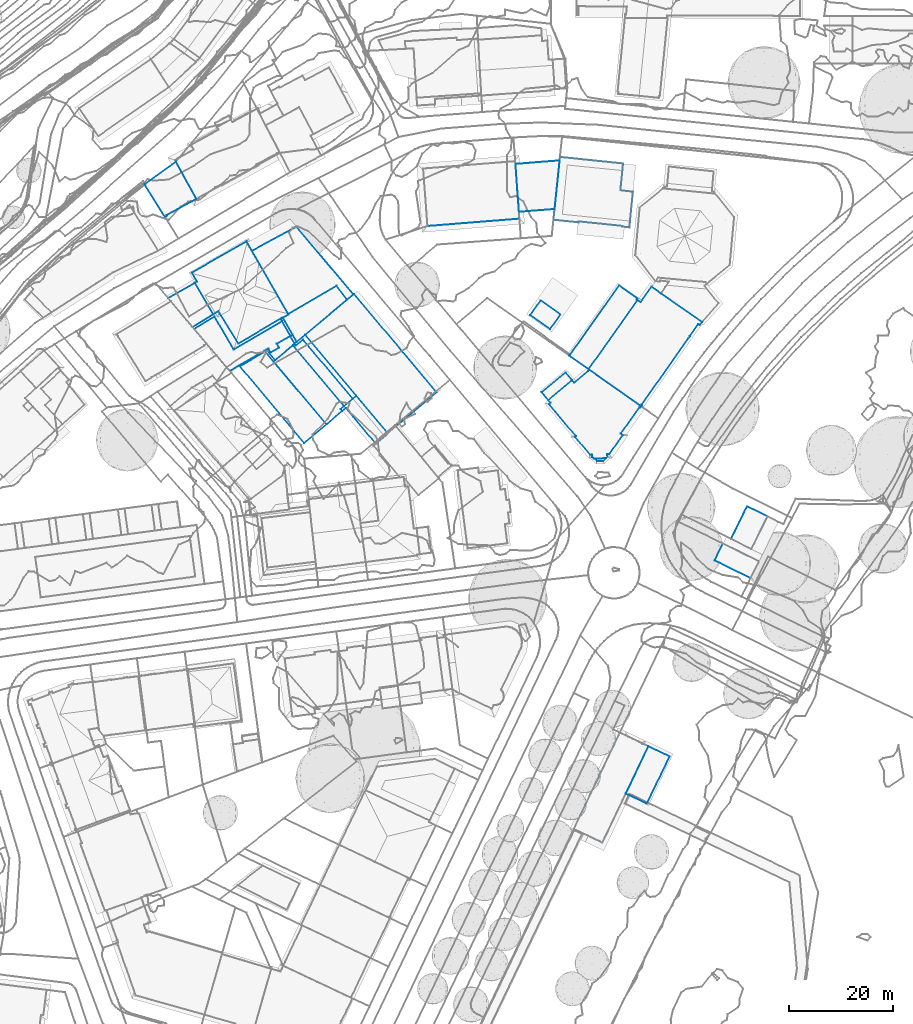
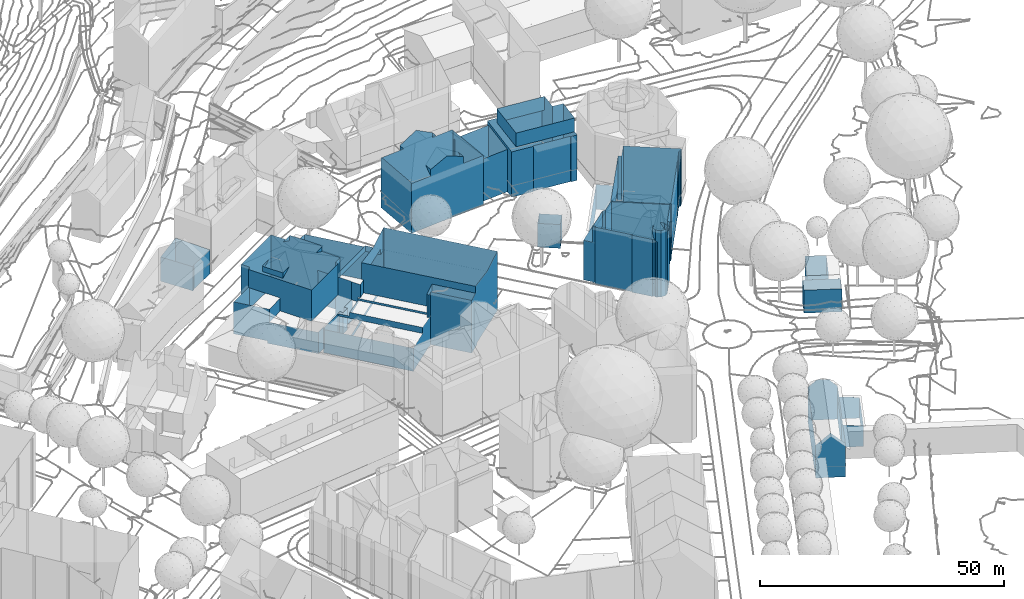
# Not in any storey, part 45 of 494: 13 walls.
"""IFC2X3 model written with IfcOpenShell, lengths in metres."""

from ifc_helpers import new_model, si_unit, frame, origin_with_axes, place, context, subcontext, project, faceted_brep, element, save


model = new_model("IFC2X3")

# Units and contexts
model_context = context("Model", 3, precision=1e-05, world=origin_with_axes())
body_context = subcontext(model_context, "Body", "Model", "MODEL_VIEW")
ifc_project = project(units=[si_unit("AREAUNIT", "SQUARE_METRE"), si_unit("LENGTHUNIT", "METRE")], contexts=[model_context])

# Walls
wall_1_placement = place(None, frame((498.6247320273, 242.5555160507, 500.7935), z_axis=(0.0, 0.0, 1.0), x_axis=(1.0, 0.0, 0.0)))
element("IfcWall", 1, at=wall_1_placement, Name="Wall 0", context=body_context, shape_type="Brep", body=[
    faceted_brep([(11.8209999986, -2.3183999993, 14.1177), (9.5240000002, -3.6611999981, 14.1177), (9.5240000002, -3.6611999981, 12.7668), (7.0659999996, 0.5429000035, 14.1177), (9.362999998, 1.8847000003, 14.1177), (7.0659999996, 0.5429000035, 12.7668), (13.7329999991, -13.0097999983, 4.7326), (11.9100000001, -14.0595999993, 4.7326), (13.7329999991, -13.0097999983, -0.6109), (13.8579999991, -13.1591999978, 4.7326), (13.8579999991, -13.1591999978, -0.6109), (18.7349999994, -10.3310999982, 4.7325), (18.7349999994, -10.3310999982, -0.6109), (18.6279999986, -10.191399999, 4.7325), (18.6279999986, -10.191399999, -0.6109), (19.3709999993, -9.7636999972, 4.7325), (19.3709999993, -9.7636999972, -0.6109), (19.8000000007, -10.5088, 4.7325), (19.8000000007, -10.5088, -0.6109), (21.4030000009, -9.5859999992, 4.7325), (21.4030000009, -9.5859999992, -0.6109), (20.9739999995, -8.8407999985, 4.7325), (20.9739999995, -8.8407999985, -0.6109), (24.0399999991, -7.0761999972, 4.7325), (24.0399999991, -7.0761999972, -0.6109), (22.1109999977, -3.7314999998, -0.6109), (22.1510000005, -3.8017999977, -0.397), (22.1109999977, -3.7314999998, -0.397), (22.1510000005, -3.8017999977, 4.7326), (13.5709999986, -8.7636999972, -0.397), (13.5709999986, -8.7636999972, -0.6109), (4.7369999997, -5.5927999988, 0.0), (8.6909999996, -3.1327999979, -0.3969), (4.7369999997, -5.5927999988, -0.6109), (9.6979999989, -2.5058999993, -0.3969), (9.6979999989, -2.5058999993, -0.6109), (21.1669999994, 0.4414000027, 14.1177), (19.0489999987, -0.7968999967, 14.1177), (21.1669999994, 0.4414000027, 12.8998), (15.1259999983, 5.9150000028, 14.1177), (17.2879999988, 7.1787, 14.1177), (17.2879999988, 7.1787, 12.8748), (4.5920000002, 4.933600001, 12.6968), (15.112999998, 10.9550000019, -0.3969), (4.5920000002, 4.933600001, -0.3969), (15.112999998, 10.9550999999, 2.8908), (12.4820000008, 9.4492000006, 12.7388), (15.112999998, 10.9550999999, 7.8213), (23.2469999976, -3.1708999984, 6.2014), (23.2469999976, -3.1708999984, -0.397), (21.756000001, -4.0282999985, 12.8108), (21.756000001, -4.0282999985, 4.7326), (12.6730000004, -9.9433999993, 4.7326), (22.0170000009, -4.4814999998, 12.5368), (12.6730000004, -9.9433999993, 12.5368), (22.0170000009, -4.4814999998, 4.7326), (8.6909999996, -3.1327999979, 0.0), (5.1400000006, 2.942400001, 0.0), (8.938000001, -3.5546999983, 7.9963), (5.1400000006, 2.942400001, 12.5368), (8.938000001, -3.5546999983, 4.7326), (5.1400000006, 2.942400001, 7.9963), (5.0500000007, -5.9618999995, 7.9963), (5.0500000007, -5.9618999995, 4.7326), (0.0, 0.0, 7.9963), (11.9100000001, -14.0595999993, -0.6109), (0.0, 0.0, 0.0), (5.5850000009, 3.1972000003, -0.3969), (5.5850000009, 3.1972000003, 12.7968), (4.699000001, 4.746100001, 12.8058), (15.112999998, 10.9550999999, 12.7528), (15.2199999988, 10.7695000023, 12.8608), (17.4919999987, 6.8242000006, 14.2747), (20.9419999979, 0.8310000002, 14.2956), (23.1449999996, -2.9941999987, 12.9128), (23.2469999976, -3.1708999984, 12.8048), (5.1400000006, 2.942400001, -0.3969)], [[[0, 1, 2]], [[3, 4, 5]], [[1, 3, 2]], [[6, 7, 8]], [[9, 6, 10]], [[11, 9, 12]], [[13, 11, 14]], [[15, 13, 16]], [[17, 15, 18]], [[19, 17, 20]], [[21, 19, 22]], [[23, 21, 24]], [[25, 26, 24]], [[26, 25, 27]], [[23, 26, 28]], [[26, 23, 24]], [[29, 27, 30]], [[31, 32, 33]], [[32, 34, 35]], [[32, 35, 33]], [[34, 29, 35]], [[36, 37, 38]], [[39, 40, 41]], [[42, 43, 44]], [[45, 46, 47]], [[48, 28, 49]], [[28, 26, 49]], [[50, 51, 28]], [[52, 53, 54]], [[52, 55, 53]], [[55, 51, 50]], [[56, 57, 32]], [[54, 58, 52]], [[58, 54, 59]], [[52, 58, 60]], [[61, 58, 59]], [[58, 62, 60]], [[63, 62, 64]], [[31, 65, 7]], [[7, 63, 31]], [[66, 31, 63]], [[31, 33, 65]], [[66, 63, 64]], [[67, 68, 42]], [[44, 67, 42]], [[68, 69, 42]], [[47, 70, 71]], [[41, 40, 72]], [[47, 71, 41]], [[45, 47, 48]], [[45, 49, 43]], [[38, 47, 41]], [[38, 48, 47]], [[41, 73, 38]], [[73, 36, 38]], [[38, 74, 75]], [[49, 45, 48]], [[48, 38, 75]], [[72, 73, 41]], [[66, 64, 57]], [[76, 57, 67]], [[57, 64, 61]], [[59, 68, 67]], [[61, 67, 57]], [[67, 61, 59]], [[3, 5, 2]], [[7, 65, 8]], [[6, 8, 10]], [[9, 10, 12]], [[11, 12, 14]], [[13, 14, 16]], [[15, 16, 18]], [[17, 18, 20]], [[19, 20, 22]], [[21, 22, 24]], [[27, 25, 30]], [[56, 32, 31]], [[29, 30, 35]], [[42, 46, 43]], [[70, 47, 46]], [[43, 46, 45]], [[75, 50, 28]], [[48, 75, 28]], [[50, 53, 55]], [[57, 76, 32]], [[62, 63, 60]]]),
])
wall_2_placement = place(None, frame((512.3577320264, 229.5457160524, 499.1847), z_axis=(0.0, 0.0, 1.0), x_axis=(1.0, 0.0, 0.0)))
element("IfcWall", 2, at=wall_2_placement, Name="Wall 0", context=body_context, shape_type="Brep", body=[
    faceted_brep([(19.5500000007, -8.4013999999, -0.225), (20.2410000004, -7.8192999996, -0.0021), (20.2410000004, -7.8192999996, -0.0321), (19.5500000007, -8.4013999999, -0.0021), (22.6040000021, -5.8291000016, -0.225), (22.6040000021, -5.8291000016, -0.0321), (19.8770000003, -8.7890999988, -0.0021), (19.8770000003, -8.7890999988, -0.2251), (19.8770000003, -8.7890999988, 12.7847), (19.5500000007, -8.4013999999, 7.1012), (19.8770000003, -8.7890999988, 7.1012), (32.1220000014, 1.9580000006, 0.2619), (22.1979999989, 13.7987999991, 0.2619), (22.1979999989, 13.7987999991, 15.1225), (30.0139999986, 4.4717000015, 15.1185), (35.0989999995, -1.5947000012, 0.2619), (38.0760000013, -5.1475000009, 0.2619), (22.0749999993, 13.6963, 0.2619), (22.0749999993, 13.6963, 7.6682), (22.0749999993, 13.6963, 15.0985), (27.9970000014, -13.6240000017, 15.0425), (21.9180000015, -6.4072000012, 13.3336), (27.9970000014, -13.6240000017, 13.3336), (12.0340000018, 5.3291000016, 15.0425), (12.3099999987, 5.0009999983, 10.8489), (21.9180000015, -6.4072000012, 7.5842), (12.0340000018, 5.3291000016, 10.8489), (12.3099999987, 5.0009999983, 7.5842), (9.9090000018, 5.7050999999, 10.8489), (8.0230000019, 8.9814000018, 1.1239), (9.9090000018, 5.7050999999, 1.1238), (9.4670000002, 9.9199000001, 1.1868), (18.7419999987, 15.3828000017, 1.1868), (9.4670000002, 9.9199000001, 1.1239), (2.4330000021, 22.1367000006, 9.4411), (11.0240000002, 26.817400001, 9.4411), (2.4330000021, 22.1367000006, 1.1869), (8.0230000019, 8.9814000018, 10.8489), (9.5139999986, 9.8388999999, 1.1239), (9.5139999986, 9.8388999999, 10.8489), (9.4670000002, 9.9199000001, 10.8489), (18.7419999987, 15.3828000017, 10.8489), (9.4670000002, 9.9199000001, 9.4411), (10.9149999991, 3.8183999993, 10.8489), (10.693, 4.1992000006, 7.5842), (10.9149999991, 3.8183999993, 7.5842), (9.8399999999, 5.6649999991, 10.8489), (9.8399999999, 5.6649999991, 6.3413), (10.693, 4.1992000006, 6.3413), (20.8209999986, 12.7314999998, 1.1868), (18.7419999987, 15.3828000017, 1.1239), (18.7419999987, 15.3828000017, 9.4411), (20.8209999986, 12.7314000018, 9.441), (20.6429999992, -8.2763999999, 3.7756), (20.6409999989, -8.2754000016, 7.5842), (20.5670000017, -8.2060000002, 7.5842), (20.5670000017, -8.2060000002, -0.0321), (20.6429999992, -8.2763999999, 1.8717), (20.6440000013, -8.2773000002, -0.0321), (7.6700000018, 3.4237999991, 6.3413), (7.2410000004, 4.1689000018, 6.3413), (7.6700000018, 3.4237999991, 1.0359), (6.0670000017, 2.5009999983, 6.3413), (6.0670000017, 2.5009999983, 1.0359), (5.6380000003, 3.246100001, 6.3413), (5.6380000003, 3.246100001, 1.0359), (12.550999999, -14.9756000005, 5.7954), (0.0, 0.0, 5.7954), (12.550999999, -14.9756000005, -0.0001), (26.3229999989, -15.0322000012, -0.2251), (22.0139999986, -9.9072000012, 6.3603), (22.0139999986, -9.9061999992, 3.0676), (26.3229999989, -15.0322000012, 9.653), (26.3229999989, -15.0322000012, 12.9457), (22.0139999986, -9.9072000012, -0.2251), (22.0139999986, -9.9061999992, 9.654), (20.5769999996, -8.1981999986, 9.654), (20.5769999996, -8.1981999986, 7.5842), (20.5769999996, -8.1981999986, -0.0321), (20.5769999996, -8.1981999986, -0.2251), (19.5500000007, -8.4013999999, 12.7847), (20.2410000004, -7.8192999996, 7.5842), (20.2410000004, -7.8192999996, 7.0573), (10.3460000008, 3.9072000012, 7.5842), (10.3460000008, 3.9072000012, -0.002), (10.307, 5.933600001, 1.1238), (11.1059999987, 4.5478999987, 1.1238), (10.307, 5.933600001, 1.0359), (5.2470000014, 3.0214999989, 1.0359), (6.9270000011, 1.0273000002, 1.0359), (5.2470000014, 3.0214999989, 0.0), (17.3909999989, 9.8418000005, 14.1766), (17.3909999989, 9.8418000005, 10.8489), (20.8209999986, 12.7314999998, 10.8489), (22.0300000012, 13.7490000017, 15.0985), (22.0300000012, 13.7490000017, 9.441), (38.0760000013, -5.1475000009, 15.1135), (33.3579999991, -9.1152000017, 14.1766), (33.3579999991, -9.1152000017, 0.2619), (26.3229999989, -15.0322000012, 6.3593), (28.6840000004, -13.0458999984, -0.2251), (28.6840000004, -13.0458999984, 0.2619), (11.0240000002, 26.817400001, 1.1869), (22.0300000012, 13.7490000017, 1.1868), (22.0300000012, 13.7490000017, 0.2619), (0.0, 0.0, 0.0), (4.8949999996, 2.8183999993, 5.7954), (4.8949999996, 2.8183999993, 6.3413), (16.8289999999, -11.3632999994, 7.2982), (6.6150000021, 0.7637000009, 6.3413), (16.8289999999, -11.3632999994, 5.7954), (6.9180000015, 0.4043000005, 5.7954), (6.6150000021, 0.7637000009, 5.7954), (6.6150000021, 0.7637000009, 7.2983), (10.3460000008, 3.9072000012, 7.0583), (6.9270000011, 1.0273000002, -0.002), (11.1059999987, 4.5478999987, 1.0359), (12.7190000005, 5.9063000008, 0.2619), (12.7190000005, 5.9063000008, -0.032), (10.3460000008, 3.9072000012, -0.032), (12.7190000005, 5.9063000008, 1.1238), (20.8209999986, 12.7314000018, 1.1238), (17.3909999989, 9.8418000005, 1.1238), (17.3909999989, 9.8418000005, 0.2619), (22.6040000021, -5.8291000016, 0.2619), (22.9970000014, -6.2949000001, 0.2619), (7.2410000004, 4.1689000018, 1.0359), (20.5769999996, -8.1981999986, 12.9477), (16.8289999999, -11.3632999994, -0.0021)], [[[0, 1, 2]], [[1, 0, 3]], [[0, 2, 4]], [[5, 4, 2]], [[6, 3, 7]], [[8, 9, 10]], [[11, 12, 13]], [[11, 13, 14]], [[14, 15, 11]], [[15, 14, 16]], [[17, 18, 12]], [[18, 19, 12]], [[20, 21, 22]], [[21, 20, 23]], [[21, 24, 25]], [[24, 23, 26]], [[23, 24, 21]], [[24, 27, 25]], [[28, 29, 30]], [[31, 32, 33]], [[34, 35, 36]], [[37, 38, 29]], [[38, 37, 39]], [[40, 41, 42]], [[43, 44, 45]], [[44, 43, 46]], [[47, 44, 46]], [[47, 48, 44]], [[32, 49, 50]], [[24, 43, 27]], [[51, 41, 52]], [[53, 54, 55]], [[53, 56, 57]], [[56, 53, 55]], [[56, 58, 57]], [[59, 60, 61]], [[62, 59, 63]], [[64, 62, 65]], [[66, 67, 68]], [[69, 70, 71]], [[70, 72, 73]], [[74, 69, 71]], [[75, 54, 70]], [[54, 75, 76]], [[70, 54, 53]], [[77, 54, 76]], [[74, 71, 57]], [[57, 71, 53]], [[57, 58, 74]], [[78, 79, 58]], [[58, 79, 74]], [[80, 81, 9]], [[81, 80, 21]], [[9, 81, 82]], [[25, 81, 21]], [[81, 83, 82]], [[1, 84, 2]], [[85, 86, 87]], [[88, 89, 90]], [[23, 91, 92]], [[92, 26, 23]], [[91, 93, 92]], [[93, 94, 95]], [[94, 93, 91]], [[95, 52, 93]], [[96, 97, 16]], [[16, 97, 98]], [[97, 99, 98]], [[97, 22, 72]], [[73, 72, 22]], [[72, 99, 97]], [[100, 101, 69]], [[99, 69, 101]], [[98, 99, 101]], [[22, 97, 20]], [[39, 42, 38]], [[42, 39, 40]], [[38, 42, 31]], [[34, 31, 42]], [[36, 31, 34]], [[102, 35, 18]], [[18, 103, 102]], [[104, 103, 17]], [[18, 35, 95]], [[18, 17, 103]], [[95, 19, 18]], [[94, 19, 95]], [[105, 106, 88]], [[106, 105, 67]], [[107, 64, 106]], [[65, 88, 106]], [[88, 90, 105]], [[65, 106, 64]], [[108, 109, 110]], [[109, 111, 110]], [[106, 112, 107]], [[109, 112, 111]], [[48, 113, 114]], [[113, 48, 109]], [[83, 44, 114]], [[48, 114, 44]], [[115, 89, 84]], [[116, 117, 89]], [[118, 119, 84]], [[117, 84, 89]], [[120, 116, 86]], [[121, 103, 104]], [[103, 121, 49]], [[122, 121, 104]], [[117, 118, 84]], [[116, 123, 117]], [[104, 123, 120]], [[120, 122, 104]], [[116, 120, 123]], [[117, 5, 118]], [[5, 117, 124]], [[5, 100, 4]], [[101, 5, 125]], [[100, 5, 101]], [[125, 5, 124]], [[126, 47, 30]], [[47, 126, 60]], [[46, 28, 47]], [[28, 30, 47]], [[30, 87, 126]], [[76, 127, 8]], [[10, 55, 76]], [[76, 55, 77]], [[79, 78, 56]], [[10, 56, 55]], [[7, 79, 56]], [[8, 10, 76]], [[10, 108, 110]], [[68, 110, 66]], [[10, 110, 6]], [[7, 56, 6]], [[6, 56, 10]], [[3, 0, 7]], [[80, 9, 8]], [[96, 16, 14]], [[13, 12, 19]], [[37, 29, 28]], [[32, 50, 33]], [[35, 102, 36]], [[41, 51, 42]], [[49, 121, 50]], [[43, 45, 27]], [[41, 93, 52]], [[60, 126, 61]], [[59, 61, 63]], [[62, 63, 65]], [[67, 105, 68]], [[73, 75, 70]], [[127, 75, 73]], [[99, 72, 70]], [[70, 69, 99]], [[75, 127, 76]], [[71, 70, 53]], [[83, 114, 82]], [[84, 119, 2]], [[86, 116, 87]], [[89, 115, 90]], [[31, 33, 38]], [[113, 109, 108]], [[112, 109, 107]], [[30, 85, 87]], [[128, 110, 68]], [[110, 128, 6]]]),
])
wall_3_placement = place(None, frame((547.8737320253, 267.5604160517, 499.9486), z_axis=(0.0, 0.0, 1.0), x_axis=(1.0, 0.0, 0.0)))
element("IfcWall", 3, at=wall_3_placement, Name="Wall 0", context=body_context, shape_type="Brep", body=[
    faceted_brep([(17.9920000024, -1.5088, 0.0), (17.9780000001, -1.3134999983, 12.2728), (18.182, -4.1259999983, 4.5735), (18.182, -4.1259999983, 12.3038), (18.382000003, -6.9003999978, 12.3348), (17.7800000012, 1.4237999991, 12.2428), (17.7800000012, 1.4237999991, 9.1511), (17.7800000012, 1.4237999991, 6.0594), (17.7800000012, 1.4237999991, 0.0), (18.0810000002, -2.7382999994, 0.0), (18.2400000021, -4.928799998, 0.0), (18.382000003, -6.9003999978, 3.0587), (18.382000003, -6.9013999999, 0.0), (18.4820000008, -8.2890999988, 0.0), (18.5820000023, -9.6767999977, 3.0917), (18.5820000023, -9.6767999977, 0.0), (13.5300000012, -8.2148999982, 14.0816), (13.6840000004, -10.0665000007, 14.0816), (13.6840000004, -10.0665000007, 12.3838), (5.564000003, -10.7168000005, 14.0816), (5.4130000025, -8.8867999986, 14.0816), (5.564000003, -10.7168000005, 12.4038), (12.7660000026, 1.0223999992, 13.6337), (12.875, -0.2958999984, 13.6337), (12.7660000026, 1.0223999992, 12.4288), (4.757000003, -0.9668000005, 13.6337), (4.6460000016, 0.3720000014, 13.6337), (4.6460000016, 0.3720000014, 12.4078), (0.8170000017, -10.9189999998, 0.0), (0.8300000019, -11.0956999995, 0.0), (0.8300000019, -11.0956999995, 12.4158), (0.0, 0.0, 0.0), (0.8170000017, -10.9189999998, 12.5778), (0.0, 0.0, 12.3968), (0.0219999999, -0.2939999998, 12.6648), (8.7060000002, 0.6972000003, 15.8685), (17.5899999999, 1.4081999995, 12.4408), (9.6240000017, -10.3915999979, 15.8685), (7.6469999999, -10.5498999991, 0.0), (18.5820000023, -9.6767999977, 12.3678), (5.5540000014, -10.7177999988, 12.4038), (5.5540000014, -10.7177999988, 0.0)], [[[0, 1, 2]], [[2, 3, 4]], [[5, 1, 6]], [[7, 0, 8]], [[0, 2, 9]], [[10, 2, 11]], [[10, 11, 12]], [[11, 13, 12]], [[13, 11, 14]], [[15, 13, 14]], [[2, 10, 9]], [[16, 17, 18]], [[19, 20, 21]], [[22, 23, 24]], [[25, 26, 27]], [[28, 29, 30]], [[31, 28, 30]], [[30, 32, 33]], [[34, 33, 32]], [[30, 33, 31]], [[27, 26, 35]], [[24, 27, 35]], [[33, 27, 31]], [[8, 31, 27]], [[24, 35, 22]], [[6, 24, 36]], [[6, 36, 5]], [[8, 27, 7]], [[7, 24, 6]], [[7, 27, 24]], [[18, 17, 37]], [[38, 15, 14]], [[14, 39, 18]], [[14, 18, 38]], [[37, 21, 38]], [[21, 37, 19]], [[21, 40, 41]], [[38, 21, 41]], [[29, 41, 40]], [[30, 29, 40]], [[37, 38, 18]], [[1, 3, 2]], [[2, 4, 11]], [[7, 6, 1]], [[1, 0, 7]], [[39, 14, 4]], [[11, 4, 14]]]),
])
wall_4_placement = place(None, frame((494.0337320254, 264.5447160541, 502.2364), z_axis=(0.0, 0.0, 1.0), x_axis=(1.0, 0.0, 0.0)))
element("IfcWall", 4, at=wall_4_placement, Name="Wall 0", context=body_context, shape_type="Brep", body=[
    faceted_brep([(4.325000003, -5.9463, 6.0464), (4.3949999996, -6.0722000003, 6.0464), (4.325000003, -5.9463, 0.0), (10.0240000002, -2.7998000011, 6.0464), (10.0240000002, -2.7998000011, 0.0), (6.0700000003, 4.3662, 6.0465), (6.0700000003, 4.3662, 0.0), (0.0, 0.0, 6.0465), (0.0, 0.0, 0.0), (3.9730000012, -6.3047000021, 6.0464), (3.9730000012, -6.3047000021, 0.0), (4.3949999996, -6.0722000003, 0.0)], [[[0, 1, 2]], [[3, 0, 4]], [[5, 3, 6]], [[7, 5, 8]], [[9, 7, 10]], [[1, 9, 11]], [[1, 11, 2]], [[0, 2, 4]], [[3, 4, 6]], [[5, 6, 8]], [[7, 8, 10]], [[9, 10, 11]]]),
])
wall_5_placement = place(None, frame((576.9417320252, 139.999816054, 499.5324), z_axis=(0.0, 0.0, 1.0), x_axis=(1.0, 0.0, 0.0)))
element("IfcWall", 5, at=wall_5_placement, Name="Wall 0", context=body_context, shape_type="Brep", body=[
    faceted_brep([(11.5860000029, 17.3280999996, 10.0631), (10.4990000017, 17.8486000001, 0.0001), (10.4890000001, 17.8534999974, 10.0571), (12.7589999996, 16.7655999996, 10.0681), (11.7790000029, 17.2362999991, 0.0), (12.7589999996, 16.7655999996, 0.0), (13.194000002, 16.557599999, 9.5621), (13.2440000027, 16.5341999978, 1.9529), (13.5360000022, 16.3935999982, 5.9195), (13.3420000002, 16.4872999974, 4.3566), (13.5360000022, 16.3935999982, 0.0), (8.9010000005, 18.615199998, 0.0001), (9.3770000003, 18.3866999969, 8.7652), (9.6220000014, 18.2694999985, 0.0001), (8.9010000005, 18.615199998, 8.2693), (9.7270000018, 18.2187999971, 9.1302), (5.1810000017, 10.8349999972, 2.8848), (0.0, 0.0, 8.2142), (4.450000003, 9.307599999, 8.2423), (6.6760000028, 13.9608999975, 8.2553), (0.0, 0.0, 0.0), (5.007000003, 10.4706999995, 0.0), (1.7520000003, -0.8388999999, 10.0421), (1.6150000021, -0.7744000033, 0.0), (5.5170000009, -2.6425999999, 0.0), (4.1410000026, -1.9834000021, 9.7131), (2.893000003, -1.3857000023, 0.0), (8.7360000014, 4.0917999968, 0.0), (9.4790000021, 5.6454999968, 0.0), (8.0600000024, 2.6787, 8.3202), (7.3740000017, 1.2431999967, 0.0), (9.4790000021, 5.6454999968, 8.3112), (14.4150000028, 15.9726999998, 0.0), (14.4150000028, 15.9726999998, 8.2832), (11.6380000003, 10.1640999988, 0.0), (13.5360000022, 16.3935999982, 9.1652), (2.762000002, -1.3232000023, 11.095), (5.5170000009, -2.6425999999, 8.3342)], [[[0, 1, 2]], [[0, 3, 4]], [[3, 5, 4]], [[3, 6, 5]], [[5, 6, 7]], [[6, 8, 9]], [[9, 8, 7]], [[7, 10, 5]], [[11, 12, 13]], [[11, 14, 12]], [[12, 15, 13]], [[16, 17, 18]], [[18, 19, 16]], [[17, 16, 20]], [[16, 21, 20]], [[19, 14, 16]], [[14, 11, 16]], [[16, 11, 21]], [[22, 17, 20]], [[23, 22, 20]], [[13, 15, 1]], [[2, 1, 15]], [[24, 25, 26]], [[27, 28, 29]], [[30, 27, 29]], [[29, 24, 30]], [[31, 32, 33]], [[31, 34, 32]], [[29, 34, 31]], [[28, 34, 29]], [[35, 33, 8]], [[10, 33, 32]], [[1, 0, 4]], [[6, 9, 7]], [[35, 8, 6]], [[8, 10, 7]], [[22, 23, 36]], [[26, 36, 23]], [[37, 25, 24]], [[36, 26, 25]], [[37, 24, 29]], [[33, 10, 8]]]),
])
wall_6_placement = place(None, frame((586.985732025, 146.8299160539, 499.5454), z_axis=(0.0, 0.0, 1.0), x_axis=(1.0, 0.0, 0.0)))
element("IfcWall", 6, at=wall_6_placement, Name="Wall 0", context=body_context, shape_type="Brep", body=[
    faceted_brep([(4.3710000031, 9.1425999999, 0.0), (4.3710000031, 9.1425999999, 5.5845), (8.4470000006, 7.1893999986, 5.1605), (8.4470000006, 7.1893999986, 0.0), (0.0, 0.0, 0.0), (0.0, 0.0, 5.5875), (4.0789999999, -1.9502000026, 0.0), (4.0789999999, -1.9502000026, 5.1625)], [[[0, 1, 2]], [[3, 0, 2]], [[0, 4, 1]], [[5, 4, 6]], [[7, 6, 2]], [[2, 6, 3]], [[5, 1, 4]], [[7, 5, 6]]]),
])
wall_7_placement = place(None, frame((604.1217320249, 191.883616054, 499.7615), z_axis=(0.0, 0.0, 1.0), x_axis=(1.0, 0.0, 0.0)))
element("IfcWall", 7, at=wall_7_placement, Name="Wall 0", context=body_context, shape_type="Brep", body=[
    faceted_brep([(4.9080000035, 1.620099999, 5.7325), (4.506000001, 1.8192999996, 0.0001), (1.5960000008, 3.253899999, 0.0), (8.5789999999, -0.1904000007, 0.0001), (8.5789999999, -0.1904000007, 5.7325), (0.0, 0.0, 0.0), (0.0, 0.0, 5.7324), (1.5960000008, 3.253899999, 5.7314), (6.9760000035, -3.4414000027, 5.7325), (6.9760000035, -3.4414000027, 0.0001)], [[[0, 1, 2]], [[0, 3, 1]], [[0, 4, 3]], [[5, 6, 2]], [[7, 2, 6]], [[8, 6, 9]], [[9, 4, 8]], [[9, 3, 4]], [[2, 7, 0]], [[6, 5, 9]]]),
])
wall_8_placement = place(None, frame((607.3027320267, 196.0164160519, 499.6766), z_axis=(0.0, 0.0, 1.0), x_axis=(1.0, 0.0, 0.0)))
element("IfcWall", 8, at=wall_8_placement, Name="Wall 0", context=body_context, shape_type="Brep", body=[
    faceted_brep([(0.0, 0.0, 0.0), (0.0, 0.0, 5.8164), (0.7650000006, 1.5527000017, 5.8164), (1.2859999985, 2.6084000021, 0.0), (1.7639999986, 3.5771999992, 5.8164), (3.1039999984, 6.2949000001, 5.8164), (3.1039999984, 6.2949000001, 0.0), (3.9450000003, -1.9463, 5.8174), (3.9450000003, -1.9463, 0.0), (6.0029999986, 2.2256000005, 0.0), (7.0560000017, 4.3603999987, 0.0), (4.7149999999, -0.3856999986, 5.8174), (7.0560000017, 4.3603999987, 5.8164)], [[[0, 1, 2]], [[2, 3, 0]], [[4, 5, 6]], [[7, 1, 8]], [[9, 10, 11]], [[12, 11, 10]], [[11, 8, 9]], [[6, 5, 12]], [[6, 12, 10]], [[2, 4, 3]], [[4, 6, 3]], [[1, 0, 8]], [[7, 8, 11]]]),
])
wall_9_placement = place(None, frame((573.0317320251, 257.6658160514, 499.7226), z_axis=(0.0, 0.0, 1.0), x_axis=(1.0, 0.0, 0.0)))
element("IfcWall", 9, at=wall_9_placement, Name="Wall 0", context=body_context, shape_type="Brep", body=[
    faceted_brep([(2.6390000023, 10.6172000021, 14.7666), (13.3090000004, 9.5439999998, 14.7666), (2.6390000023, 10.6172000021, 11.3249), (1.6830000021, 1.1026000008, 14.7666), (1.6830000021, 1.1026000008, 11.3249), (14.7850000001, -0.2137999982, 14.7666), (14.7850000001, -0.2137999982, 11.3249), (1.2609999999, 12.1338, 11.3249), (13.4410000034, 10.8672000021, 11.3249), (1.2609999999, 12.1338, 0.0), (0.0, 0.0, 11.3249), (0.0, 0.0, 0.0), (4.8920000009, -0.3202999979, 11.3249), (4.8740000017, -0.498999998, 11.3249), (4.8920000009, -0.3202999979, 0.0), (13.2760000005, -1.1875, 11.3249), (13.2760000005, -1.1875, 0.0), (13.2630000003, -1.3143999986, 11.3249), (13.2630000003, -1.3143999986, 0.0), (14.6590000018, -1.4648000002, 11.3249), (14.6590000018, -1.4648000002, 0.0), (12.9260000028, 5.6963, 14.7666), (15.3509999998, 5.4209000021, 14.7666), (12.9260000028, 5.6963, 0.0), (13.4410000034, 10.8672000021, 0.0), (13.3090000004, 9.5439999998, 11.3249), (15.3509999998, 5.4209000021, 0.0), (4.8740000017, -0.498999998, 0.0)], [[[0, 1, 2]], [[3, 0, 4]], [[5, 3, 6]], [[7, 8, 9]], [[10, 7, 11]], [[12, 13, 14]], [[15, 12, 16]], [[17, 15, 18]], [[19, 17, 20]], [[21, 22, 23]], [[24, 8, 25]], [[25, 21, 23]], [[21, 25, 1]], [[25, 23, 24]], [[22, 6, 26]], [[6, 22, 5]], [[26, 6, 20]], [[19, 20, 6]], [[10, 11, 13]], [[1, 25, 2]], [[0, 2, 4]], [[3, 4, 6]], [[8, 24, 9]], [[7, 9, 11]], [[13, 27, 14]], [[12, 14, 16]], [[15, 16, 18]], [[17, 18, 20]], [[22, 26, 23]], [[11, 27, 13]]]),
])
wall_10_placement = place(None, frame((565.6917320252, 268.4637160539, 499.7686), z_axis=(0.0, 0.0, 1.0), x_axis=(1.0, 0.0, 0.0)))
element("IfcWall", 10, at=wall_10_placement, Name="Wall 0", context=body_context, shape_type="Brep", body=[
    faceted_brep([(7.557, -8.7110000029, 10.59), (8.5320000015, 0.672799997, 0.0), (8.5320000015, 0.672799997, 10.587), (7.557, -8.7110000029, 0.0), (0.0, 0.0, 10.587), (0.0, 0.0, 0.0), (0.6770000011, -9.25, 0.0), (0.6770000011, -9.25, 10.59)], [[[0, 1, 2]], [[1, 0, 3]], [[4, 2, 5]], [[5, 6, 4]], [[0, 7, 3]], [[2, 1, 5]], [[6, 7, 4]], [[7, 6, 3]]]),
])
wall_11_placement = place(None, frame((568.5307320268, 239.2557160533, 500.0015), z_axis=(0.0, 0.0, 1.0), x_axis=(1.0, 0.0, 0.0)))
element("IfcWall", 11, at=wall_11_placement, Name="Wall 0", context=body_context, shape_type="Brep", body=[
    faceted_brep([(2.0089999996, 2.8407999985, 5.9305), (5.8289999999, 0.1122999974, 5.9305), (2.0089999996, 2.8407999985, 0.0), (0.0, 0.0, 5.9305), (0.0, 0.0, 0.0), (3.8200000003, -2.7285000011, 5.9305), (3.8200000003, -2.7285000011, 0.0), (5.8289999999, 0.1122999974, 0.0)], [[[0, 1, 2]], [[3, 0, 4]], [[5, 3, 6]], [[1, 5, 7]], [[1, 7, 2]], [[0, 2, 4]], [[3, 4, 6]], [[5, 6, 7]]]),
])
wall_12_placement = place(None, frame((576.0807320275, 231.3953160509, 499.9275), z_axis=(0.0, 0.0, 1.0), x_axis=(1.0, 0.0, 0.0)))
element("IfcWall", 12, at=wall_12_placement, Name="Wall 0", context=body_context, shape_type="Brep", body=[
    faceted_brep([(13.7670000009, 10.3545000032, -0.104), (13.7670000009, 10.3545000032, 13.8457), (15.8699999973, 13.3252000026, 13.8457), (15.8699999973, 13.3252000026, -0.104), (3.7049999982, -2.6054999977, 0.0), (13.1719999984, 10.7763999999, 0.0), (3.7049999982, -2.6054999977, -0.104), (14.0350000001, -9.490199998, 13.8457), (13.8570000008, -9.7460999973, 13.8457), (14.0350000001, -9.490199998, -0.104), (13.9780000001, -9.4511999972, 13.8457), (13.9780000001, -9.4511999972, -0.104), (22.9230000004, 3.3438000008, 13.8457), (22.9230000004, 3.3438000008, -0.104), (22.9800000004, 3.3037, 13.8457), (22.9800000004, 3.3037, -0.104), (23.3350000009, 3.8115000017, 13.8457), (23.3350000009, 3.8115000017, -0.104), (23.2780000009, 3.8516000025, 13.8457), (23.2780000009, 3.8516000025, -0.104), (24.8759999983, 6.1377000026, 13.8457), (24.8759999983, 6.1377000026, -0.104), (25.1459999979, 5.9483000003, 13.8457), (25.1459999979, 5.9483000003, -0.104), (25.6389999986, 6.5069000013, 13.8457), (25.6389999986, 6.5069000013, -0.104), (13.175999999, 11.0420000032, 6.2374), (13.0489999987, 10.8633000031, 6.2374), (13.175999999, 11.0420000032, 0.0), (9.5909999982, 13.5888999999, 6.2374), (9.5909999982, 13.5888999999, 0.0), (0.0, 0.0, 6.2374), (0.0, 0.0, 0.0), (3.7049999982, -2.6054999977, 13.8457), (13.1719999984, 10.7763999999, 6.2374), (3.7049999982, -2.6054999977, 6.2374), (13.0489999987, 10.8633000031, 0.0), (13.1719999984, 10.7763999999, -0.104), (13.1719999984, 10.7763999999, 13.8457), (13.8570000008, -9.7460999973, -0.104)], [[[0, 1, 2]], [[3, 0, 2]], [[4, 5, 6]], [[7, 8, 9]], [[10, 7, 11]], [[12, 10, 13]], [[14, 12, 15]], [[16, 14, 17]], [[18, 16, 19]], [[20, 18, 21]], [[22, 20, 23]], [[24, 22, 25]], [[2, 24, 3]], [[26, 27, 28]], [[29, 26, 30]], [[31, 29, 32]], [[33, 34, 35]], [[34, 36, 27]], [[37, 5, 0]], [[34, 38, 0]], [[0, 5, 34]], [[8, 33, 35]], [[39, 35, 4]], [[35, 39, 8]], [[4, 31, 32]], [[31, 4, 35]], [[4, 6, 39]], [[5, 37, 6]], [[8, 39, 9]], [[7, 9, 11]], [[10, 11, 13]], [[12, 13, 15]], [[14, 15, 17]], [[16, 17, 19]], [[18, 19, 21]], [[20, 21, 23]], [[22, 23, 25]], [[24, 25, 3]], [[27, 36, 28]], [[26, 28, 30]], [[29, 30, 32]], [[38, 34, 33]], [[5, 36, 34]], [[38, 1, 0]]]),
])
wall_13_placement = place(None, frame((570.7887320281, 224.3660160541, 500.0575), z_axis=(0.0, 0.0, 1.0), x_axis=(1.0, 0.0, 0.0)))
element("IfcWall", 13, at=wall_13_placement, Name="Wall 0", context=body_context, shape_type="Brep", body=[
    faceted_brep([(1.2609999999, -1.5058000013, 0.0), (5.8310000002, 2.3525999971, 0.0), (1.2609999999, -1.5058000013, -0.126), (13.7659999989, 1.0693999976, -0.126), (9.0949999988, 4.3544999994, -0.126), (19.1490000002, -2.7168000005, 13.8917), (9.0949999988, 4.3544999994, 13.8377), (19.1490000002, -2.7168000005, -0.126), (8.936999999, 4.111399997, 14.1316), (8.936999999, 4.111399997, -0.126), (9.7079999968, -12.0293000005, 14.1066), (9.7079999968, -12.0293000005, -0.126), (9.7410000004, -12.5185000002, 13.8597), (9.7410000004, -12.5185000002, -0.126), (10.0209999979, -12.7861000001, 13.7237), (9.8859999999, -12.6572000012, 6.3794), (10.0209999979, -12.7861000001, -0.126), (12.356999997, -12.7656000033, 13.7237), (12.356999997, -12.7656000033, 0.048), (12.3819999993, -12.7656000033, 13.7237), (12.3819999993, -12.7656000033, -0.126), (10.0789999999, -12.7861000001, 13.7237), (10.0789999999, -12.7861000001, 0.048), (12.6719999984, -12.442400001, 12.1758), (12.6719999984, -12.442400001, 13.8846), (12.6469999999, -12.4697000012, 13.8706), (12.6719999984, -12.442400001, -0.126), (12.5240000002, -12.6074000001, 4.9465), (12.6439999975, -12.0888000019, 14.0626), (12.6439999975, -12.0888000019, 0.048), (12.6329999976, -11.9541000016, -0.126), (12.6329999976, -11.9541000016, 0.048), (12.6429999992, -11.9541000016, 14.1306), (12.6429999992, -11.9541000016, 0.048), (13.0130000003, -11.9599000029, 14.1256), (13.0130000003, -11.9599000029, -0.126), (9.3599999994, -12.067400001, 14.0886), (9.3599999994, -12.067400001, -0.126), (0.0, 0.0, 9.8771), (4.5689999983, 3.8359999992, 9.8771), (0.0, 0.0, 0.0), (1.2609999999, -1.5058000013, 13.7237), (5.8310000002, 2.3525999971, 9.8771), (1.2609999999, -1.5058000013, 9.8771), (11.1419999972, -13.3222000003, 16.6174), (11.3079999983, -13.3203000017, 4.2406), (11.8159999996, -13.3164000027, 16.6174), (11.8159999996, -13.3164000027, 0.048), (10.6289999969, -13.3262000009, 0.048), (12.6469999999, -12.4697000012, 16.6174), (12.3979999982, -12.7236000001, 16.6174), (12.0869999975, -13.0400000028, 7.3633), (12.6380000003, -11.3486000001, 14.9965), (12.6369999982, -11.2812000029, 15.0695), (12.6369999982, -11.2812000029, 16.6174), (12.6399999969, -11.6670000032, 14.2746), (11.9799999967, -10.6377000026, 16.6174), (12.4219999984, -11.0703000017, 15.6295), (9.7709999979, -11.3066000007, 16.6174), (10.4129999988, -10.6513000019, 16.6174), (9.7709999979, -11.3066000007, 15.1495), (9.7740000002, -11.6933000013, 14.2746), (9.7809999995, -12.4931000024, 13.8726), (9.7809999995, -12.4931000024, 16.6174), (10.2599999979, -12.9638000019, 16.6184), (10.6289999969, -13.3262000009, 16.6184), (15.2189999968, -8.0205000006, -0.126), (15.2189999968, -8.0205000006, 14.2276), (15.4599999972, -8.1904000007, 14.0796), (15.6030000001, -8.2910000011, 14.0786), (15.6030000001, -8.2910000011, -0.126), (1.7139999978, -2.0459000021, -0.126), (1.3939999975, -2.3183000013, -0.126), (1.7139999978, -2.0459000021, 9.8771), (1.3939999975, -2.3183000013, 14.0977), (1.4890000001, -2.2373000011, 14.1766), (1.7139999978, -2.0459000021, 14.1756), (6.6219999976, -8.5019000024, -0.126), (6.6219999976, -8.5019000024, 14.1486), (6.5819999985, -8.4541000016, 14.0996), (6.2729999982, 1.8329999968, -0.126), (5.8310000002, 2.3525999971, -0.126), (4.5689999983, 3.8359999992, 0.0), (5.8310000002, 2.3525999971, 13.7237), (6.2729999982, 1.8329999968, 14.1616), (6.2729999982, 1.8329999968, 9.8771), (18.9759999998, -2.9609000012, 14.1386), (18.9759999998, -2.9609000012, -0.126), (19.0079999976, -2.9150000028, 14.1386), (8.924999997, 4.1015999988, 14.1476), (18.8530000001, -2.8740000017, -0.126), (18.8530000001, -2.8740000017, 14.1946), (18.8420000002, -2.8906000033, 14.2146), (18.8849999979, -2.8965000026, 14.1956), (6.4609999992, -8.638600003, 14.1256), (6.5089999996, -8.5976000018, 14.1636), (6.4609999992, -8.638600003, -0.126), (15.5439999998, -8.375, 14.1346), (13.0379999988, -11.9258000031, 14.1426), (9.2960000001, -11.9922000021, 14.1266)], [[[0, 1, 2]], [[3, 4, 5]], [[5, 4, 6]], [[5, 7, 3]], [[8, 6, 9]], [[6, 4, 9]], [[10, 11, 12]], [[12, 11, 13]], [[14, 15, 16]], [[15, 13, 16]], [[12, 13, 15]], [[17, 18, 19]], [[19, 18, 20]], [[21, 14, 22]], [[16, 22, 14]], [[16, 20, 22]], [[22, 20, 18]], [[23, 24, 25]], [[26, 23, 27]], [[25, 19, 23]], [[27, 19, 20]], [[27, 20, 26]], [[26, 28, 23]], [[28, 26, 29]], [[24, 23, 28]], [[30, 31, 29]], [[30, 29, 26]], [[32, 33, 34]], [[31, 30, 33]], [[33, 30, 35]], [[11, 36, 37]], [[38, 39, 40]], [[41, 42, 43]], [[44, 45, 46]], [[47, 46, 45]], [[45, 48, 47]], [[25, 49, 50]], [[17, 25, 50]], [[51, 18, 17]], [[51, 17, 50]], [[47, 18, 51]], [[52, 53, 54]], [[55, 52, 54]], [[55, 54, 32]], [[32, 28, 33]], [[54, 49, 32]], [[49, 28, 32]], [[28, 49, 25]], [[33, 28, 29]], [[56, 54, 57]], [[54, 53, 57]], [[58, 59, 60]], [[61, 62, 63]], [[63, 58, 60]], [[60, 61, 63]], [[64, 48, 65]], [[22, 48, 64]], [[63, 62, 64]], [[22, 64, 21]], [[21, 64, 62]], [[66, 67, 68]], [[68, 69, 70]], [[68, 70, 66]], [[71, 72, 73]], [[74, 75, 76]], [[76, 73, 74]], [[74, 73, 72]], [[77, 78, 79]], [[79, 74, 72]], [[79, 72, 77]], [[80, 1, 39]], [[1, 80, 81]], [[1, 82, 39]], [[83, 84, 85]], [[42, 83, 85]], [[42, 85, 80]], [[39, 42, 80]], [[7, 86, 87]], [[5, 88, 86]], [[5, 86, 7]], [[89, 8, 9]], [[84, 9, 85]], [[9, 84, 89]], [[9, 80, 85]], [[66, 90, 91]], [[91, 92, 67]], [[91, 67, 66]], [[87, 86, 93]], [[91, 90, 87]], [[91, 87, 93]], [[94, 95, 78]], [[78, 77, 96]], [[78, 96, 94]], [[34, 97, 98]], [[34, 69, 97]], [[34, 35, 70]], [[34, 70, 69]], [[37, 36, 96]], [[94, 36, 99]], [[96, 36, 94]], [[0, 73, 43]], [[0, 71, 73]], [[71, 0, 2]], [[73, 76, 41]], [[41, 43, 73]], [[40, 43, 38]], [[40, 0, 43]], [[1, 81, 2]], [[14, 12, 15]], [[23, 19, 27]], [[35, 34, 33]], [[10, 36, 11]], [[39, 82, 40]], [[83, 42, 41]], [[45, 44, 48]], [[65, 48, 44]], [[51, 50, 46]], [[46, 47, 51]]]),
])

save(model, "model.ifc")
